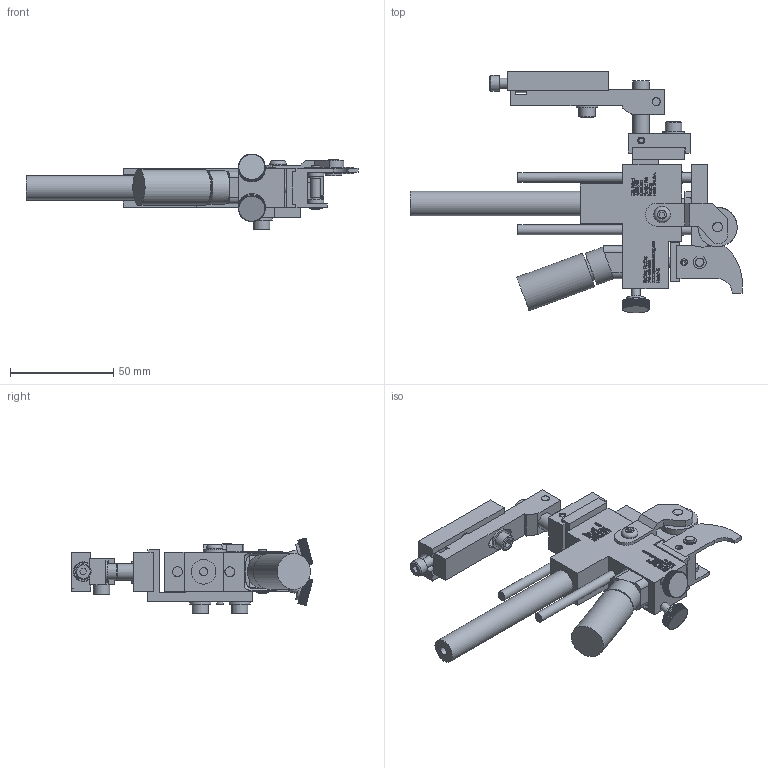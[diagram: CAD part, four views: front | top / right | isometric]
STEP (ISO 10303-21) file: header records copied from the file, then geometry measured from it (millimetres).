
FILE_DESCRIPTION((''),'2;1');
FILE_NAME('C:\Documents and Settings\Ron\My Documents\Inventor\Sprinter Drawing\Machines in Inventor\Model 44\Dot\1-eight\Std\Brkt\Ret\Model 44 STD .125 Dia Dot Ret w brkt.stp','2009-01-14T12:30:24',('Ron'),(''),'Autodesk Inventor 2008','Autodesk Inventor 2008','');
FILE_SCHEMA(('AUTOMOTIVE_DESIGN { 1 0 10303 214 1 1 1 1 }'));
Length unit declared in the file: inch
Products named in the file (1): Model 44 STD .125 Dia Dot Ret w brkt
Bounding box: 161 x 117.12 x 36.82 mm (x, y, z)
Volume: 103396 mm3; surface area: 50477.2 mm2
Topology: 381 solids, 381 shells, 6185 faces, 15366 edges, 9497 vertices
Faces by surface type: plane 4345, bspline 1317, cylinder 470, cone 48, torus 5
Full cylindrical faces by diameter (mm): 3.175 x5, 3.302 x1, 3.962 x1, 4.064 x7, 4.166 x1, 4.699 x1, 4.75 x4, 4.775 x1, 4.826 x8, 5.144 x1, 5.156 x5, 5.207 x2, 5.41 x2, 6.096 x1, 6.274 x2, 7.239 x1, 7.62 x1, 7.925 x7, 7.938 x1, 8.128 x1, 9.017 x1, 9.525 x2, 10.312 x4, 10.922 x1, 11.036 x1, 11.938 x2, 14.478 x1, 16.256 x1, 17.272 x1, 19.05 x1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
Entity records: 197048 total; most frequent: CARTESIAN_POINT 53986, ORIENTED_EDGE 30288, DIRECTION 23493, EDGE_CURVE 15144, VECTOR 11387, LINE 11387, VERTEX_POINT 9431, EDGE_LOOP 6739
